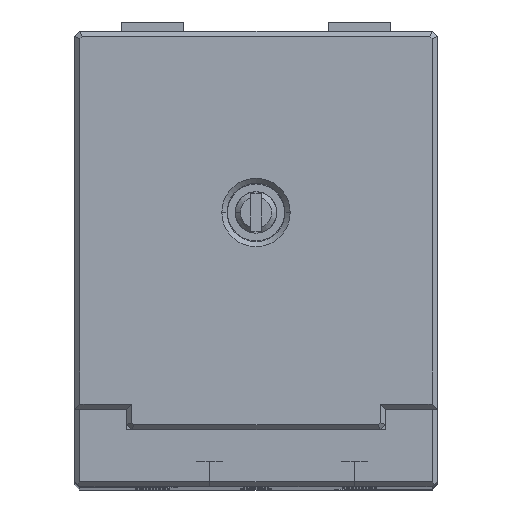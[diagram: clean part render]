
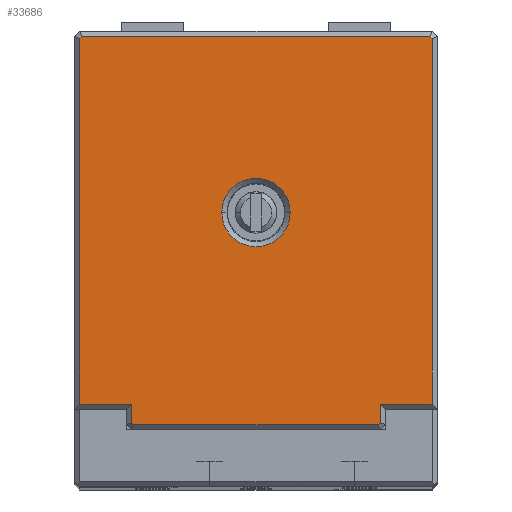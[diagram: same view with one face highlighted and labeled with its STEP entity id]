
A CAD part, top view. The second image highlights one B-rep face of the part: STEP entity #33686.
In plain terms, the highlighted planar face has unit normal (0, 0, 1) as drawn and (0, 0, -1) by its records, which use the part's own axes.
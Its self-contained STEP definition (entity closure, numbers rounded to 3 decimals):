
#245 = EDGE_CURVE ( 'NONE', #41665, #34440, #33708, .T. ) ;
#400 = DIRECTION ( 'NONE',  ( -1., 0., 0. ) ) ;
#1103 = CARTESIAN_POINT ( 'NONE',  ( 34.5, 35.293, 0. ) ) ;
#1353 = EDGE_CURVE ( 'NONE', #34440, #32244, #37168, .T. ) ;
#1743 = LINE ( 'NONE', #4341, #27737 ) ;
#2653 = CARTESIAN_POINT ( 'NONE',  ( 0.854, 35.646, 0. ) ) ;
#3433 = DIRECTION ( 'NONE',  ( 0., 0., 1. ) ) ;
#3878 = CARTESIAN_POINT ( 'NONE',  ( 5.5, 0., 0. ) ) ;
#3999 = LINE ( 'NONE', #40998, #36789 ) ;
#4058 = CARTESIAN_POINT ( 'NONE',  ( 29.146, -2.146, 0. ) ) ;
#4167 = DIRECTION ( 'NONE',  ( -0.707, 0.707, 0. ) ) ;
#4316 = EDGE_CURVE ( 'NONE', #21654, #5592, #7883, .T. ) ;
#4341 = CARTESIAN_POINT ( 'NONE',  ( 0.5, 35.5, 0. ) ) ;
#5556 = EDGE_CURVE ( 'NONE', #34709, #41665, #22161, .T. ) ;
#5592 = VERTEX_POINT ( 'NONE', #36630 ) ;
#5728 = CARTESIAN_POINT ( 'NONE',  ( 30., 0., 0. ) ) ;
#5736 = EDGE_CURVE ( 'NONE', #15962, #34709, #30170, .T. ) ;
#5852 = ORIENTED_EDGE ( 'NONE', *, *, #1353, .T. ) ;
#6326 = CARTESIAN_POINT ( 'NONE',  ( 5.5, -2., 0. ) ) ;
#6511 = DIRECTION ( 'NONE',  ( 0., 1., 0. ) ) ;
#6773 = DIRECTION ( 'NONE',  ( 1., 0., 0. ) ) ;
#6929 = CARTESIAN_POINT ( 'NONE',  ( 5.5, -0.5, 0. ) ) ;
#7449 = CARTESIAN_POINT ( 'NONE',  ( 5.354, -1.646, 0. ) ) ;
#7550 = DIRECTION ( 'NONE',  ( -1., 0., 0. ) ) ;
#7628 = ORIENTED_EDGE ( 'NONE', *, *, #41991, .T. ) ;
#7690 = DIRECTION ( 'NONE',  ( 0.707, -0.707, 0. ) ) ;
#7883 = LINE ( 'NONE', #7449, #25201 ) ;
#7974 = CARTESIAN_POINT ( 'NONE',  ( 29.5, -2., 0. ) ) ;
#8416 = VECTOR ( 'NONE', #6511, 1000. ) ;
#8773 = VECTOR ( 'NONE', #17711, 1000. ) ;
#9619 = DIRECTION ( 'NONE',  ( 0., -1., 0. ) ) ;
#9802 = DIRECTION ( 'NONE',  ( -1., 0., 0. ) ) ;
#9832 = VECTOR ( 'NONE', #33490, 1000. ) ;
#9976 = VERTEX_POINT ( 'NONE', #13497 ) ;
#10373 = CARTESIAN_POINT ( 'NONE',  ( 34.5, 0., 0. ) ) ;
#11980 = FACE_OUTER_BOUND ( 'NONE', #16295, .T. ) ;
#11998 = EDGE_CURVE ( 'NONE', #31307, #26215, #21387, .T. ) ;
#12111 = VERTEX_POINT ( 'NONE', #20742 ) ;
#12163 = EDGE_CURVE ( 'NONE', #23705, #18282, #14916, .T. ) ;
#12739 = ORIENTED_EDGE ( 'NONE', *, *, #12163, .T. ) ;
#12908 = CARTESIAN_POINT ( 'NONE',  ( 0.707, 35.5, 0. ) ) ;
#13270 = LINE ( 'NONE', #36406, #31896 ) ;
#13497 = CARTESIAN_POINT ( 'NONE',  ( 0.5, 35.293, 0. ) ) ;
#13635 = DIRECTION ( 'NONE',  ( -1., 0., 0. ) ) ;
#13857 = CARTESIAN_POINT ( 'NONE',  ( 20.8, 18.5, 0. ) ) ;
#14100 = DIRECTION ( 'NONE',  ( 0., 1., 0. ) ) ;
#14608 = ORIENTED_EDGE ( 'NONE', *, *, #39959, .T. ) ;
#14916 = LINE ( 'NONE', #37615, #33803 ) ;
#15142 = ORIENTED_EDGE ( 'NONE', *, *, #28073, .T. ) ;
#15689 = CIRCLE ( 'NONE', #37813, 3.3 ) ;
#15962 = VERTEX_POINT ( 'NONE', #1103 ) ;
#16295 = EDGE_LOOP ( 'NONE', ( #37831, #25375, #18532, #42221, #34896, #5852, #29007, #19517, #14608, #12739, #7628, #34451 ) ) ;
#16665 = LINE ( 'NONE', #6929, #8416 ) ;
#16901 = VECTOR ( 'NONE', #9802, 1000. ) ;
#17209 = AXIS2_PLACEMENT_3D ( 'NONE', #32658, #26154, #400 ) ;
#17252 = CARTESIAN_POINT ( 'NONE',  ( 14.2, 18.5, 0. ) ) ;
#17711 = DIRECTION ( 'NONE',  ( -0.707, -0.707, 0. ) ) ;
#18031 = PLANE ( 'NONE',  #32731 ) ;
#18282 = VERTEX_POINT ( 'NONE', #19855 ) ;
#18468 = FACE_BOUND ( 'NONE', #22120, .T. ) ;
#18532 = ORIENTED_EDGE ( 'NONE', *, *, #5736, .T. ) ;
#18933 = DIRECTION ( 'NONE',  ( -1., 0., 0. ) ) ;
#19517 = ORIENTED_EDGE ( 'NONE', *, *, #4316, .T. ) ;
#19543 = DIRECTION ( 'NONE',  ( 0.707, 0.707, 0. ) ) ;
#19855 = CARTESIAN_POINT ( 'NONE',  ( 0.5, 0., 0. ) ) ;
#20574 = EDGE_CURVE ( 'NONE', #12111, #15962, #3999, .T. ) ;
#20742 = CARTESIAN_POINT ( 'NONE',  ( 34.293, 35.5, 0. ) ) ;
#21048 = EDGE_CURVE ( 'NONE', #9976, #41189, #23011, .T. ) ;
#21142 = EDGE_CURVE ( 'NONE', #41189, #12111, #13270, .T. ) ;
#21387 = CIRCLE ( 'NONE', #17209, 3.3 ) ;
#21636 = ORIENTED_EDGE ( 'NONE', *, *, #11998, .T. ) ;
#21654 = VERTEX_POINT ( 'NONE', #35916 ) ;
#22120 = EDGE_LOOP ( 'NONE', ( #15142, #21636 ) ) ;
#22161 = LINE ( 'NONE', #5728, #22392 ) ;
#22200 = CARTESIAN_POINT ( 'NONE',  ( 29.293, -2., 0. ) ) ;
#22392 = VECTOR ( 'NONE', #18933, 1000. ) ;
#23011 = LINE ( 'NONE', #2653, #24979 ) ;
#23705 = VERTEX_POINT ( 'NONE', #3878 ) ;
#24950 = CARTESIAN_POINT ( 'NONE',  ( 0., 0., 0. ) ) ;
#24979 = VECTOR ( 'NONE', #19543, 1000. ) ;
#25201 = VECTOR ( 'NONE', #4167, 1000. ) ;
#25375 = ORIENTED_EDGE ( 'NONE', *, *, #20574, .T. ) ;
#26154 = DIRECTION ( 'NONE',  ( 0., 0., 1. ) ) ;
#26215 = VERTEX_POINT ( 'NONE', #17252 ) ;
#27737 = VECTOR ( 'NONE', #14100, 1000. ) ;
#28073 = EDGE_CURVE ( 'NONE', #26215, #31307, #15689, .T. ) ;
#28662 = CARTESIAN_POINT ( 'NONE',  ( 29.5, 0., 0. ) ) ;
#28895 = EDGE_CURVE ( 'NONE', #32244, #21654, #42229, .T. ) ;
#29007 = ORIENTED_EDGE ( 'NONE', *, *, #28895, .T. ) ;
#29431 = CARTESIAN_POINT ( 'NONE',  ( 29.5, -1.793, 0. ) ) ;
#30080 = CARTESIAN_POINT ( 'NONE',  ( 17.5, 18.5, 0. ) ) ;
#30170 = LINE ( 'NONE', #35988, #37606 ) ;
#31307 = VERTEX_POINT ( 'NONE', #13857 ) ;
#31667 = DIRECTION ( 'NONE',  ( 0., 0., -1. ) ) ;
#31896 = VECTOR ( 'NONE', #6773, 1000. ) ;
#32086 = DIRECTION ( 'NONE',  ( -1., 0., 0. ) ) ;
#32244 = VERTEX_POINT ( 'NONE', #22200 ) ;
#32658 = CARTESIAN_POINT ( 'NONE',  ( 17.5, 18.5, 0. ) ) ;
#32731 = AXIS2_PLACEMENT_3D ( 'NONE', #24950, #31667, #32086 ) ;
#33490 = DIRECTION ( 'NONE',  ( 0., -1., 0. ) ) ;
#33686 = ADVANCED_FACE ( 'NONE', ( #11980, #18468 ), #18031, .T. ) ;
#33708 = LINE ( 'NONE', #7974, #9832 ) ;
#33803 = VECTOR ( 'NONE', #7550, 1000. ) ;
#34440 = VERTEX_POINT ( 'NONE', #29431 ) ;
#34451 = ORIENTED_EDGE ( 'NONE', *, *, #21048, .T. ) ;
#34709 = VERTEX_POINT ( 'NONE', #10373 ) ;
#34896 = ORIENTED_EDGE ( 'NONE', *, *, #245, .T. ) ;
#35916 = CARTESIAN_POINT ( 'NONE',  ( 5.707, -2., 0. ) ) ;
#35988 = CARTESIAN_POINT ( 'NONE',  ( 34.5, -0.5, 0. ) ) ;
#36406 = CARTESIAN_POINT ( 'NONE',  ( 34.5, 35.5, 0. ) ) ;
#36630 = CARTESIAN_POINT ( 'NONE',  ( 5.5, -1.793, 0. ) ) ;
#36789 = VECTOR ( 'NONE', #7690, 1000. ) ;
#37168 = LINE ( 'NONE', #4058, #8773 ) ;
#37606 = VECTOR ( 'NONE', #9619, 1000. ) ;
#37615 = CARTESIAN_POINT ( 'NONE',  ( 0., 0., 0. ) ) ;
#37813 = AXIS2_PLACEMENT_3D ( 'NONE', #30080, #3433, #13635 ) ;
#37831 = ORIENTED_EDGE ( 'NONE', *, *, #21142, .T. ) ;
#39959 = EDGE_CURVE ( 'NONE', #5592, #23705, #16665, .T. ) ;
#40998 = CARTESIAN_POINT ( 'NONE',  ( 34.646, 35.146, 0. ) ) ;
#41189 = VERTEX_POINT ( 'NONE', #12908 ) ;
#41665 = VERTEX_POINT ( 'NONE', #28662 ) ;
#41991 = EDGE_CURVE ( 'NONE', #18282, #9976, #1743, .T. ) ;
#42221 = ORIENTED_EDGE ( 'NONE', *, *, #5556, .T. ) ;
#42229 = LINE ( 'NONE', #6326, #16901 ) ;
